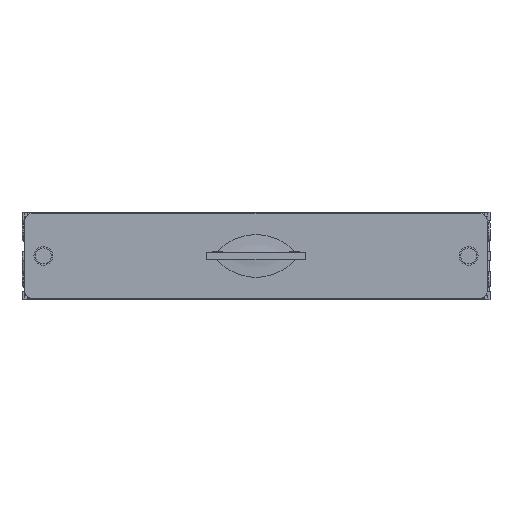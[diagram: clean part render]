
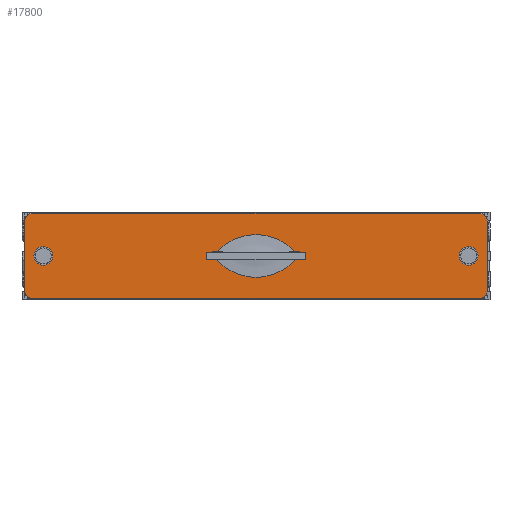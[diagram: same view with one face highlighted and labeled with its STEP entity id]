
A CAD part, top view. The second image highlights one B-rep face of the part: STEP entity #17800.
In plain terms, the highlighted planar face has unit normal (0, 0, 1).
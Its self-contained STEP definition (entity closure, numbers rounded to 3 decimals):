
#16192 = EDGE_CURVE('',#16193,#16195,#16197,.T.);
#16193 = VERTEX_POINT('',#16194);
#16194 = CARTESIAN_POINT('',(-43.5,-6.5,0.4));
#16195 = VERTEX_POINT('',#16196);
#16196 = CARTESIAN_POINT('',(-43.5,6.5,0.4));
#16197 = LINE('',#16198,#16199);
#16198 = CARTESIAN_POINT('',(-43.5,-8.,0.4));
#16199 = VECTOR('',#16200,1.);
#16200 = DIRECTION('',(0.,1.,0.));
#16225 = VERTEX_POINT('',#16226);
#16226 = CARTESIAN_POINT('',(-42.,-8.,0.4));
#16232 = EDGE_CURVE('',#16193,#16225,#16233,.T.);
#16233 = CIRCLE('',#16234,1.5);
#16234 = AXIS2_PLACEMENT_3D('',#16235,#16236,#16237);
#16235 = CARTESIAN_POINT('',(-42.,-6.5,0.4));
#16236 = DIRECTION('',(-0.,0.,1.));
#16237 = DIRECTION('',(0.,-1.,0.));
#16250 = VERTEX_POINT('',#16251);
#16251 = CARTESIAN_POINT('',(-42.,8.,0.4));
#16257 = EDGE_CURVE('',#16195,#16250,#16258,.T.);
#16258 = CIRCLE('',#16259,1.5);
#16259 = AXIS2_PLACEMENT_3D('',#16260,#16261,#16262);
#16260 = CARTESIAN_POINT('',(-42.,6.5,0.4));
#16261 = DIRECTION('',(-0.,-0.,-1.));
#16262 = DIRECTION('',(0.,-1.,0.));
#16275 = EDGE_CURVE('',#16225,#16276,#16278,.T.);
#16276 = VERTEX_POINT('',#16277);
#16277 = CARTESIAN_POINT('',(42.,-8.,0.4));
#16278 = LINE('',#16279,#16280);
#16279 = CARTESIAN_POINT('',(-43.5,-8.,0.4));
#16280 = VECTOR('',#16281,1.);
#16281 = DIRECTION('',(1.,0.,0.));
#16299 = EDGE_CURVE('',#16250,#16300,#16302,.T.);
#16300 = VERTEX_POINT('',#16301);
#16301 = CARTESIAN_POINT('',(42.,8.,0.4));
#16302 = LINE('',#16303,#16304);
#16303 = CARTESIAN_POINT('',(-43.5,8.,0.4));
#16304 = VECTOR('',#16305,1.);
#16305 = DIRECTION('',(1.,0.,0.));
#16323 = EDGE_CURVE('',#16324,#16276,#16326,.T.);
#16324 = VERTEX_POINT('',#16325);
#16325 = CARTESIAN_POINT('',(43.5,-6.5,0.4));
#16326 = CIRCLE('',#16327,1.5);
#16327 = AXIS2_PLACEMENT_3D('',#16328,#16329,#16330);
#16328 = CARTESIAN_POINT('',(42.,-6.5,0.4));
#16329 = DIRECTION('',(-0.,-0.,-1.));
#16330 = DIRECTION('',(0.,-1.,0.));
#16348 = EDGE_CURVE('',#16349,#16300,#16351,.T.);
#16349 = VERTEX_POINT('',#16350);
#16350 = CARTESIAN_POINT('',(43.5,6.5,0.4));
#16351 = CIRCLE('',#16352,1.5);
#16352 = AXIS2_PLACEMENT_3D('',#16353,#16354,#16355);
#16353 = CARTESIAN_POINT('',(42.,6.5,0.4));
#16354 = DIRECTION('',(-0.,0.,1.));
#16355 = DIRECTION('',(0.,-1.,0.));
#16371 = EDGE_CURVE('',#16324,#16349,#16372,.T.);
#16372 = LINE('',#16373,#16374);
#16373 = CARTESIAN_POINT('',(43.5,-8.,0.4));
#16374 = VECTOR('',#16375,1.);
#16375 = DIRECTION('',(0.,1.,0.));
#17800 = ADVANCED_FACE('',(#17801,#17811,#17822,#17842),#17853,.T.);
#17801 = FACE_BOUND('',#17802,.T.);
#17802 = EDGE_LOOP('',(#17803,#17804,#17805,#17806,#17807,#17808,#17809,
    #17810));
#17803 = ORIENTED_EDGE('',*,*,#16192,.F.);
#17804 = ORIENTED_EDGE('',*,*,#16232,.T.);
#17805 = ORIENTED_EDGE('',*,*,#16275,.T.);
#17806 = ORIENTED_EDGE('',*,*,#16323,.F.);
#17807 = ORIENTED_EDGE('',*,*,#16371,.T.);
#17808 = ORIENTED_EDGE('',*,*,#16348,.T.);
#17809 = ORIENTED_EDGE('',*,*,#16299,.F.);
#17810 = ORIENTED_EDGE('',*,*,#16257,.F.);
#17811 = FACE_BOUND('',#17812,.T.);
#17812 = EDGE_LOOP('',(#17813));
#17813 = ORIENTED_EDGE('',*,*,#17814,.T.);
#17814 = EDGE_CURVE('',#17815,#17815,#17817,.T.);
#17815 = VERTEX_POINT('',#17816);
#17816 = CARTESIAN_POINT('',(-38.25,0.,0.4));
#17817 = CIRCLE('',#17818,1.75);
#17818 = AXIS2_PLACEMENT_3D('',#17819,#17820,#17821);
#17819 = CARTESIAN_POINT('',(-40.,0.,0.4));
#17820 = DIRECTION('',(0.,0.,-1.));
#17821 = DIRECTION('',(1.,0.,0.));
#17822 = FACE_BOUND('',#17823,.T.);
#17823 = EDGE_LOOP('',(#17824,#17835));
#17824 = ORIENTED_EDGE('',*,*,#17825,.F.);
#17825 = EDGE_CURVE('',#17826,#17828,#17830,.T.);
#17826 = VERTEX_POINT('',#17827);
#17827 = CARTESIAN_POINT('',(8.,0.,0.4));
#17828 = VERTEX_POINT('',#17829);
#17829 = CARTESIAN_POINT('',(-8.,0.,0.4));
#17830 = CIRCLE('',#17831,10.);
#17831 = AXIS2_PLACEMENT_3D('',#17832,#17833,#17834);
#17832 = CARTESIAN_POINT('',(0.,-6.,0.4));
#17833 = DIRECTION('',(0.,0.,1.));
#17834 = DIRECTION('',(1.,0.,0.));
#17835 = ORIENTED_EDGE('',*,*,#17836,.F.);
#17836 = EDGE_CURVE('',#17828,#17826,#17837,.T.);
#17837 = CIRCLE('',#17838,10.);
#17838 = AXIS2_PLACEMENT_3D('',#17839,#17840,#17841);
#17839 = CARTESIAN_POINT('',(0.,6.,0.4));
#17840 = DIRECTION('',(0.,0.,1.));
#17841 = DIRECTION('',(-1.,0.,0.));
#17842 = FACE_BOUND('',#17843,.T.);
#17843 = EDGE_LOOP('',(#17844));
#17844 = ORIENTED_EDGE('',*,*,#17845,.T.);
#17845 = EDGE_CURVE('',#17846,#17846,#17848,.T.);
#17846 = VERTEX_POINT('',#17847);
#17847 = CARTESIAN_POINT('',(41.75,0.,0.4));
#17848 = CIRCLE('',#17849,1.75);
#17849 = AXIS2_PLACEMENT_3D('',#17850,#17851,#17852);
#17850 = CARTESIAN_POINT('',(40.,0.,0.4));
#17851 = DIRECTION('',(0.,0.,-1.));
#17852 = DIRECTION('',(1.,0.,0.));
#17853 = PLANE('',#17854);
#17854 = AXIS2_PLACEMENT_3D('',#17855,#17856,#17857);
#17855 = CARTESIAN_POINT('',(-43.5,-8.,0.4));
#17856 = DIRECTION('',(0.,0.,1.));
#17857 = DIRECTION('',(1.,0.,0.));
